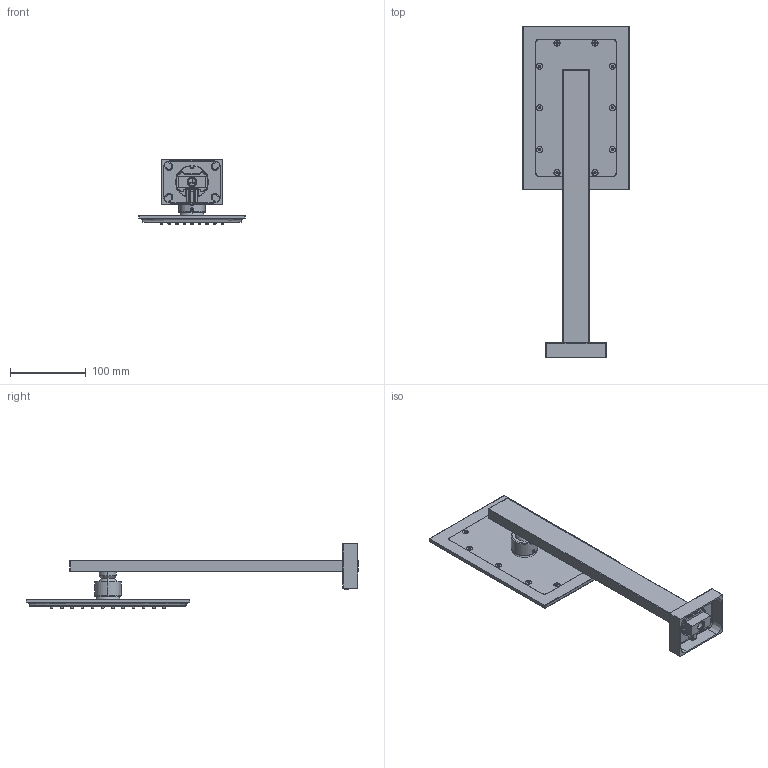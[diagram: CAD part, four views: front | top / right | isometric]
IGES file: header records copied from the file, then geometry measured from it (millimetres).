
Start section:  PTC IGES file: 46148_igs.igs
Global section: file name: 46148_igs.igs; native system: Pro/ENGINEER by Parametric Technology Corporation; preprocessor: 2011490; author: spischedda; organization: Unknown; date: 20140326.121745; units: millimetre
Bounding box: 139.99 x 437.99 x 86.7 mm (x, y, z)
Surface area: 179042.4 mm2 (no closed solid volume)
Topology: 0 solids, 0 shells, 1516 faces, 7223 edges, 7202 vertices
Faces by surface type: bspline 1516
